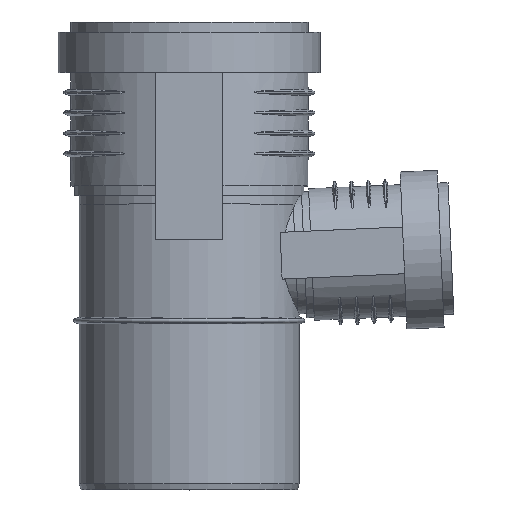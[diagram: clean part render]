
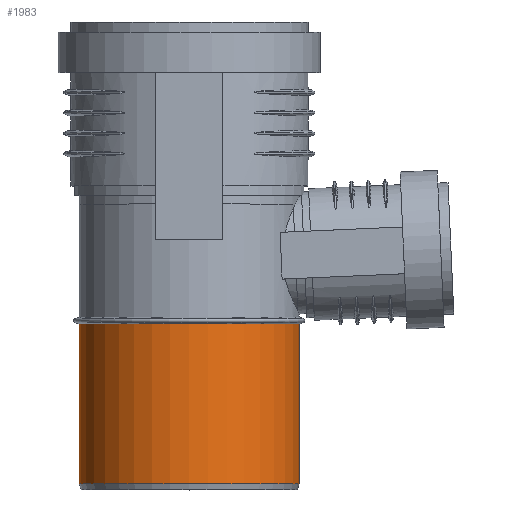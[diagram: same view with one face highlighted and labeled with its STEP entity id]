
A CAD part, top view. The second image highlights one B-rep face of the part: STEP entity #1983.
In plain terms, the highlighted cylindrical face has radius 37.6 mm (diameter 75.2 mm), a full revolution.
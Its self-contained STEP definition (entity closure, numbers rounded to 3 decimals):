
#259=CYLINDRICAL_SURFACE($,#2117,37.6);
#416=FACE_BOUND($,#701,.T.);
#589=FACE_OUTER_BOUND($,#700,.T.);
#700=EDGE_LOOP($,(#1448));
#701=EDGE_LOOP($,(#1449));
#881=CIRCLE($,#2115,37.6);
#883=CIRCLE($,#2118,37.6);
#978=VERTEX_POINT($,#2930);
#980=VERTEX_POINT($,#2935);
#1180=EDGE_CURVE($,#978,#978,#881,.T.);
#1182=EDGE_CURVE($,#980,#980,#883,.T.);
#1448=ORIENTED_EDGE($,*,*,#1182,.T.);
#1449=ORIENTED_EDGE($,*,*,#1180,.F.);
#1983=ADVANCED_FACE($,(#589,#416),#259,.T.);
#2115=AXIS2_PLACEMENT_3D($,#2931,#2346,#2347);
#2117=AXIS2_PLACEMENT_3D($,#2934,#2350,#2351);
#2118=AXIS2_PLACEMENT_3D($,#2936,#2352,#2353);
#2346=DIRECTION('center_axis',(0.,-1.,0.));
#2347=DIRECTION('ref_axis',(1.,0.,0.));
#2350=DIRECTION('center_axis',(0.,1.,0.));
#2351=DIRECTION('ref_axis',(1.,0.,0.));
#2352=DIRECTION('center_axis',(0.,-1.,0.));
#2353=DIRECTION('ref_axis',(1.,0.,0.));
#2930=CARTESIAN_POINT('',(-37.6,2.,0.));
#2931=CARTESIAN_POINT('Origin',(0.,2.,0.));
#2934=CARTESIAN_POINT('Origin',(0.,0.,0.));
#2935=CARTESIAN_POINT('',(-37.6,56.7,0.));
#2936=CARTESIAN_POINT('Origin',(0.,56.7,0.));
